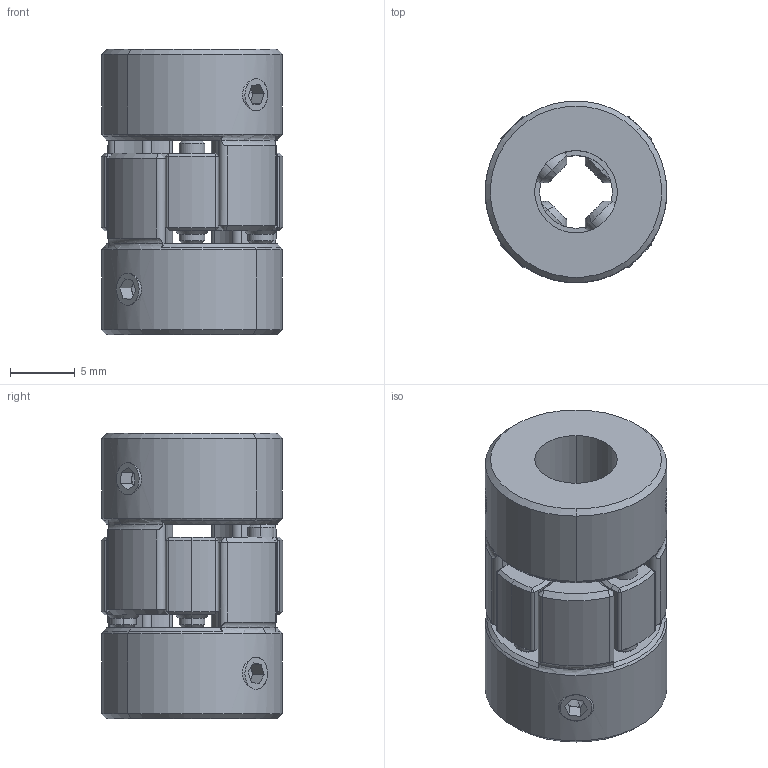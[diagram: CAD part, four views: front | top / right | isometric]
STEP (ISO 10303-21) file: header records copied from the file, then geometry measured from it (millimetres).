
FILE_DESCRIPTION (( 'STEP AP214' ), '1' );
FILE_NAME ('LF-D-D14L22-6-6.35.STEP', '2022-08-26T05:46:00', ( '' ), ( '' ), 'SwSTEP 2.0', 'SolidWorks 2022', '' );
FILE_SCHEMA (( 'AUTOMOTIVE_DESIGN' ));
Length unit declared in the file: millimetre
Products named in the file (1): LF-D-D14L22-6-6.35
Bounding box: 14 x 14 x 22 mm (x, y, z)
Volume: 2567.1 mm3; surface area: 2175.1 mm2
Topology: 1 solids, 1 shells, 353 faces, 883 edges, 508 vertices
Faces by surface type: cone 164, cylinder 115, plane 66, torus 8
Entity records: 13831 total; most frequent: CARTESIAN_POINT 2893, DIRECTION 1931, ORIENTED_EDGE 1718, EDGE_CURVE 859, AXIS2_PLACEMENT_3D 776, VERTEX_POINT 508, CIRCLE 422, EDGE_LOOP 383
